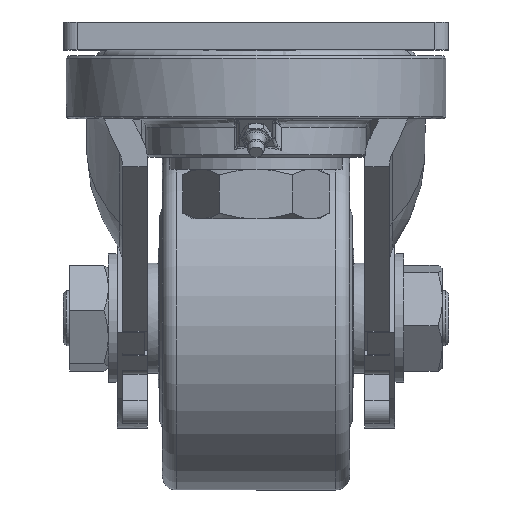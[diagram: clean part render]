
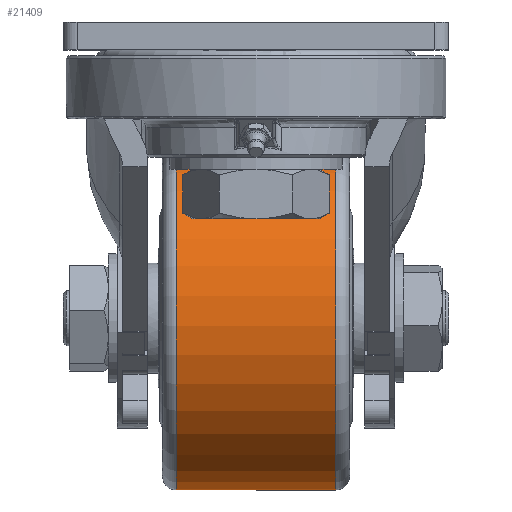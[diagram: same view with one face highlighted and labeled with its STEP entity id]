
A CAD part, left-side view. The second image highlights one B-rep face of the part: STEP entity #21409.
In plain terms, the highlighted cylindrical face has radius 62.5 mm (diameter 125 mm), a full revolution.
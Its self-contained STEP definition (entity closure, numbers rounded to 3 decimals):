
#21339=CARTESIAN_POINT('',(130.479,174.43,9.654));
#21340=VERTEX_POINT('',#21339);
#21341=CARTESIAN_POINT('',(82.644,174.43,125.139));
#21342=VERTEX_POINT('',#21341);
#21343=CARTESIAN_POINT('',(106.561,174.43,67.396));
#21344=DIRECTION('',(0.0,1.,0.0));
#21345=DIRECTION('',(0.924,0.0,0.383));
#21346=AXIS2_PLACEMENT_3D('',#21343,#21344,#21345);
#21347=CIRCLE('',#21346,62.5);
#21348=EDGE_CURVE('',#21340,#21342,#21347,.T.);
#21350=CARTESIAN_POINT('',(106.561,174.43,67.396));
#21351=DIRECTION('',(0.0,1.,0.0));
#21352=DIRECTION('',(0.924,0.0,0.383));
#21353=AXIS2_PLACEMENT_3D('',#21350,#21351,#21352);
#21354=CIRCLE('',#21353,62.5);
#21355=EDGE_CURVE('',#21342,#21340,#21354,.T.);
#21380=CARTESIAN_POINT('',(106.561,171.53,67.396));
#21381=DIRECTION('',(0.0,1.0,0.0));
#21382=DIRECTION('',(0.924,0.0,0.383));
#21383=AXIS2_PLACEMENT_3D('',#21380,#21381,#21382);
#21384=CYLINDRICAL_SURFACE('',#21383,62.5);
#21385=CARTESIAN_POINT('',(130.479,232.43,9.654));
#21386=VERTEX_POINT('',#21385);
#21387=CARTESIAN_POINT('',(82.644,232.43,125.139));
#21388=VERTEX_POINT('',#21387);
#21389=CARTESIAN_POINT('',(106.561,232.43,67.396));
#21390=DIRECTION('',(0.0,1.,0.0));
#21391=DIRECTION('',(0.924,0.0,0.383));
#21392=AXIS2_PLACEMENT_3D('',#21389,#21390,#21391);
#21393=CIRCLE('',#21392,62.5);
#21394=EDGE_CURVE('',#21386,#21388,#21393,.T.);
#21395=ORIENTED_EDGE('',*,*,#21394,.F.);
#21396=CARTESIAN_POINT('',(106.561,232.43,67.396));
#21397=DIRECTION('',(0.0,1.,0.0));
#21398=DIRECTION('',(0.924,0.0,0.383));
#21399=AXIS2_PLACEMENT_3D('',#21396,#21397,#21398);
#21400=CIRCLE('',#21399,62.5);
#21401=EDGE_CURVE('',#21388,#21386,#21400,.T.);
#21402=ORIENTED_EDGE('',*,*,#21401,.F.);
#21403=EDGE_LOOP('',(#21395,#21402));
#21404=FACE_OUTER_BOUND('',#21403,.T.);
#21405=ORIENTED_EDGE('',*,*,#21348,.T.);
#21406=ORIENTED_EDGE('',*,*,#21355,.T.);
#21407=EDGE_LOOP('',(#21405,#21406));
#21408=FACE_BOUND('',#21407,.T.);
#21409=ADVANCED_FACE('',(#21404,#21408),#21384,.T.);
